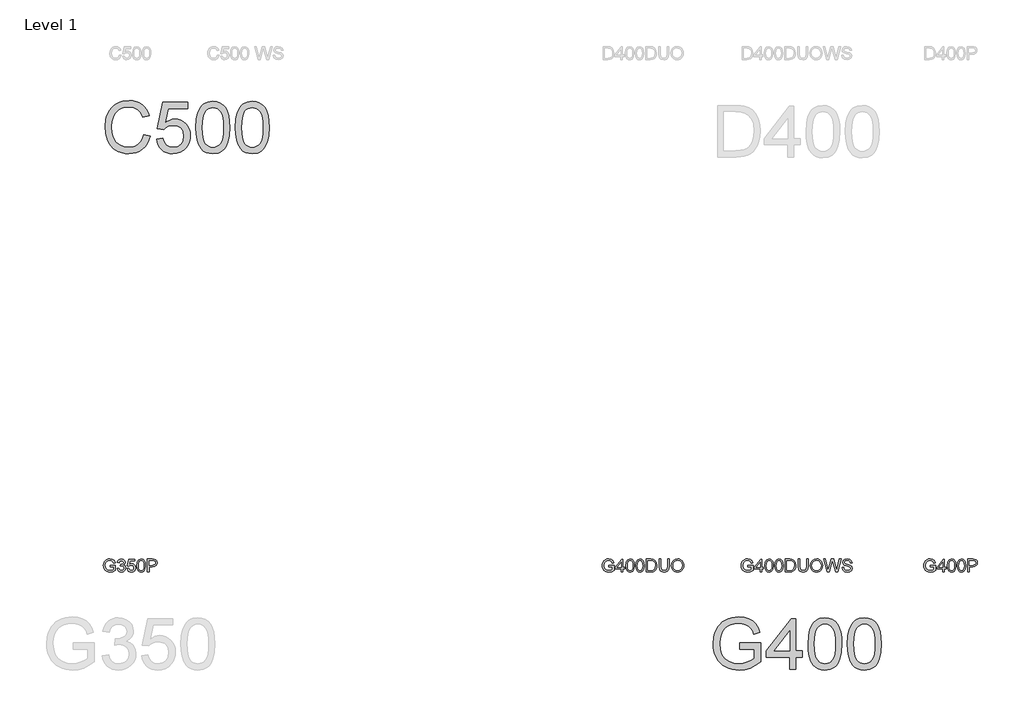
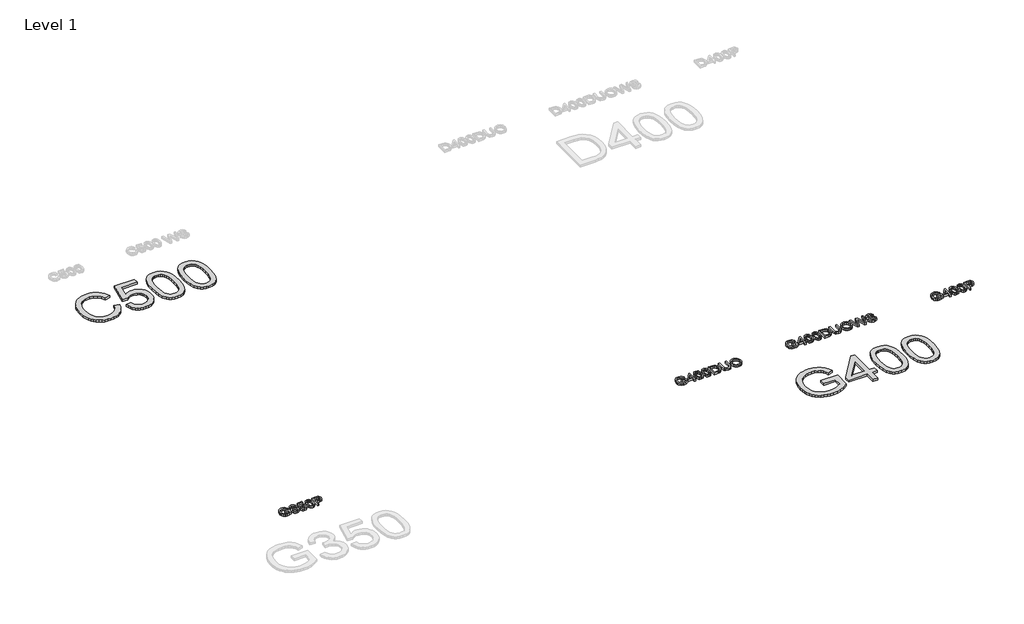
# One storey, part 4 of 5: 6 proxies.
"""IFC4 building model written with IfcOpenShell, lengths in millimetres."""

from ifc_helpers import new_model, si_unit, origin, origin_with_axes, place, context, project, spatial, polyline, outline, extrude, element, save

model = new_model("IFC4")

# Units and contexts
model_context = context("Model", 3, world=origin())
ifc_project = project(units=[si_unit("LENGTHUNIT", "METRE", prefix="MILLI")], contexts=[model_context])

# Site, building, storey
site = spatial("IfcSite", under=ifc_project)
building = spatial("IfcBuilding", under=site)
storey = spatial("IfcBuildingStorey", under=building, Name="Level 1", Elevation=0.0)

# Proxies
placement = place(None, origin())
element("IfcBuildingElementProxy", 1, Name="100mm Arial", ObjectType="100mm Arial", at=placement, inside=storey, context=model_context, shape_type="SweptSolid", body=[
    extrude(outline(polyline([(732.7703676, -7879.010611), (732.7703676, -7866.4535723), (773.5807436, -7866.4535723), (773.5807436, -7904.0020612), (753.433073, -7915.8478615), (732.1327055, -7919.820987), (718.0458907, -7918.2421601), (705.314108, -7913.5056795), (694.7375007, -7905.7770919), (687.116212, -7895.2219443), (682.50849, -7882.5606723), (680.9725827, -7868.5137114), (682.5023586, -7854.365583), (687.0916865, -7841.2046047), (694.550494, -7830.1650791), (704.6887086, -7822.3813092), (717.0372809, -7817.7643902), (731.1271614, -7816.2254172), (750.7720599, -7819.7938725), (764.5431093, -7829.7266864), (772.1337411, -7846.3426899), (760.557721, -7849.6045769), (754.8310246, -7837.9917686), (745.0453635, -7831.2963163), (730.9309576, -7828.782456), (714.8545144, -7831.49252), (703.9161564, -7838.6049052), (697.4536961, -7848.2802017), (693.5296214, -7867.9986767), (698.2507737, -7889.8876554), (711.9850349, -7902.9842544), (731.1271614, -7907.2639483), (748.3072505, -7904.0388494), (761.0237048, -7897.1594561), (761.0237048, -7879.010611), (732.7703676, -7879.010611)])), origin_with_axes(), (0.0, 0.0, 1.0), 20.0),
    extrude(outline(polyline([(789.2770421, -7891.5676498), (801.8340808, -7889.99802), (808.7625251, -7903.2172463), (821.724234, -7907.2639483), (830.3326727, -7905.8721281), (836.9790741, -7901.6966674), (842.6444568, -7887.9133553), (837.028125, -7874.9271209), (822.7543036, -7869.7890357), (813.9496612, -7871.1624618), (815.3476128, -7858.605423), (817.358701, -7858.7525758), (831.607997, -7855.1473323), (836.3536747, -7850.5733328), (837.9355673, -7844.0618215), (833.3493051, -7834.2393722), (821.5280303, -7830.3520858), (809.5596027, -7834.2761604), (803.4037107, -7846.0483843), (790.8466719, -7844.4787544), (794.543886, -7833.2031713), (801.1228423, -7824.784805), (810.1236885, -7819.5424865), (821.0865719, -7817.795047), (836.2310474, -7821.2408751), (846.8260488, -7830.6586541), (850.4926061, -7843.3260575), (847.0099898, -7854.9020776), (836.709294, -7863.2162107), (850.3945042, -7871.8001239), (855.2014956, -7888.1340845), (852.7979999, -7900.3722922), (845.5875128, -7910.5994117), (834.7043371, -7917.5155932), (821.2827756, -7919.820987), (809.1426698, -7917.8528184), (799.2589069, -7911.9483123), (792.3856449, -7902.9168094), (789.2770421, -7891.5676498)])), origin_with_axes(), (0.0, 0.0, 1.0), 20.0),
    extrude(outline(polyline([(866.1889045, -7891.5676498), (878.7459433, -7889.99802), (885.0735136, -7902.9352035), (898.1946381, -7907.2639483), (907.1954842, -7905.7586978), (913.9399875, -7901.2429463), (918.1522363, -7894.23786), (919.5563193, -7885.264605), (914.2956068, -7870.3531214), (907.6890593, -7866.2512372), (898.3908418, -7864.8839424), (887.3666447, -7867.0667089), (880.3155731, -7872.7320917), (867.7585344, -7871.1624618), (878.7459433, -7819.3646769), (927.4044685, -7819.3646769), (927.4044685, -7831.9217157), (888.8994864, -7831.9217157), (883.5284092, -7859.5864417), (892.4985985, -7854.1417882), (901.8979835, -7852.3269037), (913.6303535, -7854.5771152), (923.3700293, -7861.3277498), (929.9275259, -7871.6161829), (932.1133581, -7884.47979), (930.1451894, -7897.0368288), (924.2406834, -7907.7789831), (912.9344434, -7916.810486), (898.1455872, -7919.820987), (885.8123433, -7917.8865409), (875.9868283, -7912.0832024), (869.2515221, -7903.0854219), (866.1889045, -7891.5676498)])), origin_with_axes(), (0.0, 0.0, 1.0), 20.0),
    extrude(outline(polyline([(943.100767, -7868.8325425), (946.7918497, -7839.9292804), (957.7547331, -7823.264226), (976.0629937, -7817.795047), (990.7292226, -7821.0324086), (1000.8582402, -7830.3643485), (1006.7443521, -7845.2267811), (1009.0252205, -7868.8325425), (1005.370926, -7897.6131773), (994.4448308, -7914.3150198), (986.2134711, -7918.4444952), (976.0629937, -7919.820987), (963.0154456, -7917.4297541), (953.1071572, -7910.2560552), (945.6023645, -7893.2660384), (943.100767, -7868.8325425)]), holes=[polyline([(955.6578057, -7868.808017), (957.1293337, -7888.5602145), (961.5439177, -7899.9921475), (968.1167426, -7905.4459981), (976.0629937, -7907.2639483), (984.0092448, -7905.4398667), (990.5820698, -7899.967622), (994.9966538, -7888.5295577), (996.4681817, -7868.808017), (995.0457047, -7849.5003437), (990.7782736, -7837.9795058), (984.2177113, -7832.2589408), (975.9158409, -7830.3520858), (968.055429, -7832.0320803), (961.7401214, -7837.0720636), (957.1783847, -7849.3102713), (955.6578057, -7868.808017)])]), origin_with_axes(), (0.0, 0.0, 1.0), 20.0),
    extrude(outline(polyline([(1024.721519, -7918.2513572), (1024.721519, -7817.795047), (1061.9511769, -7817.795047), (1076.9607623, -7818.7515402), (1089.1621818, -7823.448167), (1097.0716447, -7833.1602517), (1100.0637516, -7846.8577247), (1098.0434663, -7858.6973935), (1091.9826104, -7868.5627624), (1080.6487793, -7875.2214265), (1062.8095682, -7877.4409812), (1037.2785577, -7877.4409812), (1037.2785577, -7918.2513572), (1024.721519, -7918.2513572)]), holes=[polyline([(1037.2785577, -7864.8839424), (1063.5453322, -7864.8839424), (1082.0375338, -7860.2731548), (1086.1394181, -7854.724268), (1087.5067128, -7847.2991831), (1084.281614, -7836.9003853), (1075.8080654, -7831.2104771), (1063.2510266, -7830.3520858), (1037.2785577, -7830.3520858), (1037.2785577, -7864.8839424)])]), origin_with_axes(), (0.0, 0.0, 1.0), 20.0),
])
element("IfcBuildingElementProxy", 2, Name="100mm Arial", ObjectType="100mm Arial", at=placement, inside=storey, context=model_context, shape_type="SweptSolid", body=[
    extrude(outline(polyline([(5708.3132996, -7879.010611), (5708.3132996, -7866.4535723), (5749.1236756, -7866.4535723), (5749.1236756, -7904.0020612), (5728.976005, -7915.8478615), (5707.6756375, -7919.820987), (5693.5888228, -7918.2421601), (5680.85704, -7913.5056795), (5670.2804327, -7905.7770919), (5662.659144, -7895.2219443), (5658.051422, -7882.5606723), (5656.5155147, -7868.5137114), (5658.0452907, -7854.365583), (5662.6346185, -7841.2046047), (5670.093426, -7830.1650791), (5680.2316406, -7822.3813092), (5692.5802129, -7817.7643902), (5706.6700934, -7816.2254172), (5726.3149919, -7819.7938725), (5740.0860413, -7829.7266864), (5747.6766731, -7846.3426899), (5736.100653, -7849.6045769), (5730.3739566, -7837.9917686), (5720.5882955, -7831.2963163), (5706.4738896, -7828.782456), (5690.3974464, -7831.49252), (5679.4590885, -7838.6049052), (5672.9966281, -7848.2802017), (5669.0725535, -7867.9986767), (5673.7937057, -7889.8876554), (5687.5279669, -7902.9842544), (5706.6700934, -7907.2639483), (5723.8501825, -7904.0388494), (5736.5666368, -7897.1594561), (5736.5666368, -7879.010611), (5708.3132996, -7879.010611)])), origin_with_axes(), (0.0, 0.0, 1.0), 20.0),
    extrude(outline(polyline([(5805.6303501, -7918.2513572), (5805.6303501, -7894.7069095), (5760.1110845, -7894.7069095), (5760.1110845, -7882.1498707), (5808.7696098, -7819.3646769), (5818.1873888, -7819.3646769), (5818.1873888, -7882.1498707), (5830.7444276, -7882.1498707), (5830.7444276, -7894.7069095), (5818.1873888, -7894.7069095), (5818.1873888, -7918.2513572), (5805.6303501, -7918.2513572)]), holes=[polyline([(5805.6303501, -7882.1498707), (5805.6303501, -7843.350583), (5775.5621283, -7882.1498707), (5805.6303501, -7882.1498707)])]), origin_with_axes(), (0.0, 0.0, 1.0), 20.0),
    extrude(outline(polyline([(5841.7318365, -7868.8325425), (5845.4229192, -7839.9292804), (5856.3858027, -7823.264226), (5874.6940633, -7817.795047), (5889.3602922, -7821.0324086), (5899.4893098, -7830.3643485), (5905.3754217, -7845.2267811), (5907.6562901, -7868.8325425), (5904.0019956, -7897.6131773), (5893.0759003, -7914.3150198), (5884.8445407, -7918.4444952), (5874.6940633, -7919.820987), (5861.6465152, -7917.4297541), (5851.7382268, -7910.2560552), (5844.2334341, -7893.2660384), (5841.7318365, -7868.8325425)]), holes=[polyline([(5854.2888753, -7868.808017), (5855.7604033, -7888.5602145), (5860.1749872, -7899.9921475), (5866.7478122, -7905.4459981), (5874.6940633, -7907.2639483), (5882.6403144, -7905.4398667), (5889.2131394, -7899.967622), (5893.6277233, -7888.5295577), (5895.0992513, -7868.808017), (5893.6767742, -7849.5003437), (5889.4093431, -7837.9795058), (5882.8487809, -7832.2589408), (5874.5469105, -7830.3520858), (5866.6864985, -7832.0320803), (5860.3711909, -7837.0720636), (5855.8094542, -7849.3102713), (5854.2888753, -7868.808017)])]), origin_with_axes(), (0.0, 0.0, 1.0), 20.0),
    extrude(outline(polyline([(5918.643699, -7868.8325425), (5922.3347817, -7839.9292804), (5933.2976651, -7823.264226), (5951.6059258, -7817.795047), (5966.2721546, -7821.0324086), (5976.4011722, -7830.3643485), (5982.2872842, -7845.2267811), (5984.5681525, -7868.8325425), (5980.913858, -7897.6131773), (5969.9877628, -7914.3150198), (5961.7564031, -7918.4444952), (5951.6059258, -7919.820987), (5938.5583777, -7917.4297541), (5928.6500893, -7910.2560552), (5921.1452966, -7893.2660384), (5918.643699, -7868.8325425)]), holes=[polyline([(5931.2007378, -7868.808017), (5932.6722657, -7888.5602145), (5937.0868497, -7899.9921475), (5943.6596747, -7905.4459981), (5951.6059258, -7907.2639483), (5959.5521768, -7905.4398667), (5966.1250018, -7899.967622), (5970.5395858, -7888.5295577), (5972.0111138, -7868.808017), (5970.5886367, -7849.5003437), (5966.3212056, -7837.9795058), (5959.7606433, -7832.2589408), (5951.458773, -7830.3520858), (5943.598361, -7832.0320803), (5937.2830534, -7837.0720636), (5932.7213167, -7849.3102713), (5931.2007378, -7868.808017)])]), origin_with_axes(), (0.0, 0.0, 1.0), 20.0),
    extrude(outline(polyline([(6000.264451, -7918.2513572), (6000.264451, -7817.795047), (6034.9189349, -7817.795047), (6052.8470508, -7819.2420496), (6067.6113816, -7826.4280112), (6079.5062327, -7843.5958376), (6083.4548328, -7867.4836419), (6080.781557, -7887.7539398), (6073.9144264, -7902.3833805), (6064.741902, -7911.4945912), (6052.7366862, -7916.5345745), (6036.5866666, -7918.2513572), (6000.264451, -7918.2513572)]), holes=[polyline([(6012.8214898, -7905.6943184), (6035.0415623, -7905.6943184), (6051.2038446, -7903.8794339), (6060.5235218, -7898.7536114), (6068.1632046, -7886.2824118), (6070.8977941, -7867.2874381), (6069.5580905, -7853.6022279), (6065.5389797, -7843.4977358), (6052.5036943, -7832.3631741), (6034.6982057, -7830.3520858), (6012.8214898, -7830.3520858), (6012.8214898, -7905.6943184)])]), origin_with_axes(), (0.0, 0.0, 1.0), 20.0),
    extrude(outline(polyline([(6166.6452147, -7817.795047), (6179.2022534, -7817.795047), (6179.2022534, -7875.748724), (6175.7932136, -7899.7714183), (6163.505955, -7914.2414434), (6153.2420473, -7918.4261011), (6140.2067619, -7919.820987), (6117.2631882, -7914.9649447), (6109.6235054, -7909.0205848), (6104.5344711, -7900.8995898), (6100.7207611, -7875.748724), (6100.7207611, -7817.795047), (6113.2777999, -7817.795047), (6113.2777999, -7875.3072656), (6115.754872, -7894.4493921), (6124.2652088, -7903.9284848), (6139.0295396, -7907.2639483), (6151.8011762, -7905.6146107), (6160.2931189, -7900.6665978), (6165.0571907, -7891.0280895), (6166.6452147, -7875.3072656), (6166.6452147, -7817.795047)])), origin_with_axes(), (0.0, 0.0, 1.0), 20.0),
    extrude(outline(polyline([(6196.4681817, -7869.3475773), (6199.8159079, -7847.1336362), (6209.8590864, -7830.3275603), (6225.1936342, -7819.750953), (6244.4154684, -7816.2254172), (6257.5917752, -7817.8808862), (6269.4069187, -7822.8472931), (6279.2171052, -7830.7751501), (6286.3785414, -7841.3149693), (6290.7563371, -7853.9578472), (6292.2156024, -7868.1948804), (6290.679695, -7882.621986), (6286.071973, -7895.4426735), (6278.6468881, -7906.0008868), (6268.6588919, -7913.6405695), (6256.9449161, -7918.2758827), (6244.341892, -7919.820987), (6230.9632502, -7918.1134014), (6219.0806617, -7912.9906447), (6209.2950006, -7904.9156349), (6202.2071409, -7894.3512902), (6196.4681817, -7869.3475773)]), holes=[polyline([(6209.0252205, -7869.4702046), (6211.5360151, -7885.1848972), (6219.068399, -7897.1594561), (6230.3899674, -7904.7378252), (6244.2683156, -7907.2639483), (6258.348999, -7904.7132998), (6269.6889615, -7897.0613543), (6277.1661631, -7884.7189133), (6279.6585636, -7868.0967785), (6275.3911324, -7847.3727595), (6262.9199328, -7833.650761), (6244.4890448, -7828.782456), (6230.9816443, -7831.1277037), (6219.4975946, -7838.1634468), (6211.643314, -7850.6806317), (6209.0252205, -7869.4702046)])]), origin_with_axes(), (0.0, 0.0, 1.0), 20.0),
    extrude(outline(polyline([(6327.4586975, -7918.2513572), (6300.0637516, -7817.795047), (6313.0131978, -7817.795047), (6328.9057, -7883.8176024), (6333.8107933, -7904.198265), (6339.0592431, -7886.1720472), (6358.9739217, -7817.795047), (6377.6378016, -7817.795047), (6392.1078268, -7867.3610145), (6402.8745065, -7904.198265), (6407.632447, -7884.4062136), (6423.672102, -7817.795047), (6436.6215482, -7817.795047), (6409.2020768, -7918.2513572), (6395.7866467, -7918.2513572), (6371.7026388, -7840.7508835), (6368.3426499, -7829.9351529), (6364.5657281, -7842.9581755), (6342.6154357, -7918.2513572), (6327.4586975, -7918.2513572)])), origin_with_axes(), (0.0, 0.0, 1.0), 20.0),
    extrude(outline(polyline([(6444.4696974, -7883.7195006), (6457.0267362, -7883.7195006), (6461.0734381, -7896.2888021), (6470.9572011, -7904.2350532), (6486.0158374, -7907.2639483), (6499.1369619, -7904.9708172), (6507.6105105, -7898.6677723), (6510.394151, -7890.2432746), (6508.3094863, -7882.4073881), (6499.774624, -7876.7052172), (6481.4908889, -7871.9104885), (6461.8092021, -7865.7178083), (6451.1283615, -7856.3736056), (6447.6089571, -7843.8901432), (6451.9622274, -7829.6776355), (6464.6786817, -7819.6467198), (6483.2935106, -7816.2254172), (6503.1591384, -7819.8061353), (6516.4028902, -7830.3275603), (6521.3815599, -7846.0483843), (6508.8245211, -7846.0483843), (6506.5191273, -7838.5558543), (6501.7121359, -7833.147989), (6483.78402, -7828.782456), (6465.8068531, -7833.098938), (6460.1659959, -7843.5222612), (6464.1636469, -7852.2288018), (6484.6669368, -7859.2430852), (6506.8870093, -7865.54613), (6519.0393778, -7875.7241985), (6522.9511897, -7889.9244436), (6518.4507667, -7904.9462917), (6505.5013204, -7915.9091752), (6486.5063467, -7919.820987), (6464.0778078, -7915.6026068), (6449.8898255, -7902.8984153), (6444.4696974, -7883.7195006)])), origin_with_axes(), (0.0, 0.0, 1.0), 20.0),
])
element("IfcBuildingElementProxy", 3, Name="100mm Arial", ObjectType="100mm Arial", at=placement, inside=storey, context=model_context, shape_type="SweptSolid", body=[
    extrude(outline(polyline([(4624.4659082, -7879.010611), (4624.4659082, -7866.4535723), (4665.2762842, -7866.4535723), (4665.2762842, -7904.0020612), (4645.1286136, -7915.8478615), (4623.8282461, -7919.820987), (4609.7414314, -7918.2421601), (4597.0096486, -7913.5056795), (4586.4330413, -7905.7770919), (4578.8117526, -7895.2219443), (4574.2040306, -7882.5606723), (4572.6681233, -7868.5137114), (4574.1978993, -7854.365583), (4578.7872272, -7841.2046047), (4586.2460346, -7830.1650791), (4596.3842493, -7822.3813092), (4608.7328216, -7817.7643902), (4622.822702, -7816.2254172), (4642.4676005, -7819.7938725), (4656.2386499, -7829.7266864), (4663.8292817, -7846.3426899), (4652.2532616, -7849.6045769), (4646.5265652, -7837.9917686), (4636.7409041, -7831.2963163), (4622.6264982, -7828.782456), (4606.5500551, -7831.49252), (4595.6116971, -7838.6049052), (4589.1492367, -7848.2802017), (4585.2251621, -7867.9986767), (4589.9463143, -7889.8876554), (4603.6805755, -7902.9842544), (4622.822702, -7907.2639483), (4640.0027911, -7904.0388494), (4652.7192454, -7897.1594561), (4652.7192454, -7879.010611), (4624.4659082, -7879.010611)])), origin_with_axes(), (0.0, 0.0, 1.0), 20.0),
    extrude(outline(polyline([(4721.7829587, -7918.2513572), (4721.7829587, -7894.7069095), (4676.2636931, -7894.7069095), (4676.2636931, -7882.1498707), (4724.9222184, -7819.3646769), (4734.3399974, -7819.3646769), (4734.3399974, -7882.1498707), (4746.8970362, -7882.1498707), (4746.8970362, -7894.7069095), (4734.3399974, -7894.7069095), (4734.3399974, -7918.2513572), (4721.7829587, -7918.2513572)]), holes=[polyline([(4721.7829587, -7882.1498707), (4721.7829587, -7843.350583), (4691.7147369, -7882.1498707), (4721.7829587, -7882.1498707)])]), origin_with_axes(), (0.0, 0.0, 1.0), 20.0),
    extrude(outline(polyline([(4757.8844451, -7868.8325425), (4761.5755278, -7839.9292804), (4772.5384113, -7823.264226), (4790.8466719, -7817.795047), (4805.5129008, -7821.0324086), (4815.6419184, -7830.3643485), (4821.5280303, -7845.2267811), (4823.8088987, -7868.8325425), (4820.1546042, -7897.6131773), (4809.2285089, -7914.3150198), (4800.9971493, -7918.4444952), (4790.8466719, -7919.820987), (4777.7991238, -7917.4297541), (4767.8908354, -7910.2560552), (4760.3860427, -7893.2660384), (4757.8844451, -7868.8325425)]), holes=[polyline([(4770.4414839, -7868.808017), (4771.9130119, -7888.5602145), (4776.3275958, -7899.9921475), (4782.9004208, -7905.4459981), (4790.8466719, -7907.2639483), (4798.792923, -7905.4398667), (4805.365748, -7899.967622), (4809.7803319, -7888.5295577), (4811.2518599, -7868.808017), (4809.8293829, -7849.5003437), (4805.5619517, -7837.9795058), (4799.0013895, -7832.2589408), (4790.6995191, -7830.3520858), (4782.8391071, -7832.0320803), (4776.5237996, -7837.0720636), (4771.9620628, -7849.3102713), (4770.4414839, -7868.808017)])]), origin_with_axes(), (0.0, 0.0, 1.0), 20.0),
    extrude(outline(polyline([(4834.7963076, -7868.8325425), (4838.4873903, -7839.9292804), (4849.4502737, -7823.264226), (4867.7585344, -7817.795047), (4882.4247632, -7821.0324086), (4892.5537808, -7830.3643485), (4898.4398928, -7845.2267811), (4900.7207611, -7868.8325425), (4897.0664666, -7897.6131773), (4886.1403714, -7914.3150198), (4877.9090117, -7918.4444952), (4867.7585344, -7919.820987), (4854.7109863, -7917.4297541), (4844.8026979, -7910.2560552), (4837.2979052, -7893.2660384), (4834.7963076, -7868.8325425)]), holes=[polyline([(4847.3533464, -7868.808017), (4848.8248743, -7888.5602145), (4853.2394583, -7899.9921475), (4859.8122833, -7905.4459981), (4867.7585344, -7907.2639483), (4875.7047855, -7905.4398667), (4882.2776104, -7899.967622), (4886.6921944, -7888.5295577), (4888.1637224, -7868.808017), (4886.7412453, -7849.5003437), (4882.4738142, -7837.9795058), (4875.9132519, -7832.2589408), (4867.6113816, -7830.3520858), (4859.7509696, -7832.0320803), (4853.435662, -7837.0720636), (4848.8739253, -7849.3102713), (4847.3533464, -7868.808017)])]), origin_with_axes(), (0.0, 0.0, 1.0), 20.0),
    extrude(outline(polyline([(4916.4170596, -7918.2513572), (4916.4170596, -7817.795047), (4951.0715435, -7817.795047), (4968.9996594, -7819.2420496), (4983.7639902, -7826.4280112), (4995.6588414, -7843.5958376), (4999.6074414, -7867.4836419), (4996.9341656, -7887.7539398), (4990.067035, -7902.3833805), (4980.8945106, -7911.4945912), (4968.8892948, -7916.5345745), (4952.7392752, -7918.2513572), (4916.4170596, -7918.2513572)]), holes=[polyline([(4928.9740984, -7905.6943184), (4951.1941709, -7905.6943184), (4967.3564532, -7903.8794339), (4976.6761304, -7898.7536114), (4984.3158132, -7886.2824118), (4987.0504027, -7867.2874381), (4985.7106991, -7853.6022279), (4981.6915883, -7843.4977358), (4968.6563029, -7832.3631741), (4950.8508143, -7830.3520858), (4928.9740984, -7830.3520858), (4928.9740984, -7905.6943184)])]), origin_with_axes(), (0.0, 0.0, 1.0), 20.0),
    extrude(outline(polyline([(5082.7978233, -7817.795047), (5095.354862, -7817.795047), (5095.354862, -7875.748724), (5091.9458222, -7899.7714183), (5079.6585636, -7914.2414434), (5069.3946559, -7918.4261011), (5056.3593706, -7919.820987), (5033.4157968, -7914.9649447), (5025.776114, -7909.0205848), (5020.6870798, -7900.8995898), (5016.8733697, -7875.748724), (5016.8733697, -7817.795047), (5029.4304085, -7817.795047), (5029.4304085, -7875.3072656), (5031.9074806, -7894.4493921), (5040.4178174, -7903.9284848), (5055.1821482, -7907.2639483), (5067.9537848, -7905.6146107), (5076.4457275, -7900.6665978), (5081.2097993, -7891.0280895), (5082.7978233, -7875.3072656), (5082.7978233, -7817.795047)])), origin_with_axes(), (0.0, 0.0, 1.0), 20.0),
    extrude(outline(polyline([(5112.6207904, -7869.3475773), (5115.9685165, -7847.1336362), (5126.011695, -7830.3275603), (5141.3462428, -7819.750953), (5160.5680771, -7816.2254172), (5173.7443839, -7817.8808862), (5185.5595273, -7822.8472931), (5195.3697138, -7830.7751501), (5202.53115, -7841.3149693), (5206.9089457, -7853.9578472), (5208.368211, -7868.1948804), (5206.8323036, -7882.621986), (5202.2245816, -7895.4426735), (5194.7994967, -7906.0008868), (5184.8115005, -7913.6405695), (5173.0975247, -7918.2758827), (5160.4945007, -7919.820987), (5147.1158588, -7918.1134014), (5135.2332703, -7912.9906447), (5125.4476093, -7904.9156349), (5118.3597495, -7894.3512902), (5112.6207904, -7869.3475773)]), holes=[polyline([(5125.1778291, -7869.4702046), (5127.6886237, -7885.1848972), (5135.2210076, -7897.1594561), (5146.542576, -7904.7378252), (5160.4209243, -7907.2639483), (5174.5016076, -7904.7132998), (5185.8415701, -7897.0613543), (5193.3187717, -7884.7189133), (5195.8111722, -7868.0967785), (5191.5437411, -7847.3727595), (5179.0725414, -7833.650761), (5160.6416535, -7828.782456), (5147.1342529, -7831.1277037), (5135.6502033, -7838.1634468), (5127.7959227, -7850.6806317), (5125.1778291, -7869.4702046)])]), origin_with_axes(), (0.0, 0.0, 1.0), 20.0),
])
element("IfcBuildingElementProxy", 4, Name="100mm Arial", ObjectType="100mm Arial", at=placement, inside=storey, context=model_context, shape_type="SweptSolid", body=[
    extrude(outline(polyline([(7132.7703676, -7879.010611), (7132.7703676, -7866.4535723), (7173.5807436, -7866.4535723), (7173.5807436, -7904.0020612), (7153.433073, -7915.8478615), (7132.1327055, -7919.820987), (7118.0458907, -7918.2421601), (7105.314108, -7913.5056795), (7094.7375007, -7905.7770919), (7087.116212, -7895.2219443), (7082.50849, -7882.5606723), (7080.9725827, -7868.5137114), (7082.5023586, -7854.365583), (7087.0916865, -7841.2046047), (7094.550494, -7830.1650791), (7104.6887086, -7822.3813092), (7117.0372809, -7817.7643902), (7131.1271614, -7816.2254172), (7150.7720599, -7819.7938725), (7164.5431093, -7829.7266864), (7172.1337411, -7846.3426899), (7160.557721, -7849.6045769), (7154.8310246, -7837.9917686), (7145.0453635, -7831.2963163), (7130.9309576, -7828.782456), (7114.8545144, -7831.49252), (7103.9161564, -7838.6049052), (7097.4536961, -7848.2802017), (7093.5296214, -7867.9986767), (7098.2507737, -7889.8876554), (7111.9850349, -7902.9842544), (7131.1271614, -7907.2639483), (7148.3072505, -7904.0388494), (7161.0237048, -7897.1594561), (7161.0237048, -7879.010611), (7132.7703676, -7879.010611)])), origin_with_axes(), (0.0, 0.0, 1.0), 20.0),
    extrude(outline(polyline([(7230.0874181, -7918.2513572), (7230.0874181, -7894.7069095), (7184.5681525, -7894.7069095), (7184.5681525, -7882.1498707), (7233.2266777, -7819.3646769), (7242.6444568, -7819.3646769), (7242.6444568, -7882.1498707), (7255.2014956, -7882.1498707), (7255.2014956, -7894.7069095), (7242.6444568, -7894.7069095), (7242.6444568, -7918.2513572), (7230.0874181, -7918.2513572)]), holes=[polyline([(7230.0874181, -7882.1498707), (7230.0874181, -7843.350583), (7200.0191963, -7882.1498707), (7230.0874181, -7882.1498707)])]), origin_with_axes(), (0.0, 0.0, 1.0), 20.0),
    extrude(outline(polyline([(7266.1889045, -7868.8325425), (7269.8799872, -7839.9292804), (7280.8428707, -7823.264226), (7299.1511313, -7817.795047), (7313.8173602, -7821.0324086), (7323.9463778, -7830.3643485), (7329.8324897, -7845.2267811), (7332.1133581, -7868.8325425), (7328.4590636, -7897.6131773), (7317.5329683, -7914.3150198), (7309.3016087, -7918.4444952), (7299.1511313, -7919.820987), (7286.1035832, -7917.4297541), (7276.1952948, -7910.2560552), (7268.6905021, -7893.2660384), (7266.1889045, -7868.8325425)]), holes=[polyline([(7278.7459433, -7868.808017), (7280.2174713, -7888.5602145), (7284.6320552, -7899.9921475), (7291.2048802, -7905.4459981), (7299.1511313, -7907.2639483), (7307.0973824, -7905.4398667), (7313.6702074, -7899.967622), (7318.0847913, -7888.5295577), (7319.5563193, -7868.808017), (7318.1338422, -7849.5003437), (7313.8664111, -7837.9795058), (7307.3058488, -7832.2589408), (7299.0039785, -7830.3520858), (7291.1435665, -7832.0320803), (7284.8282589, -7837.0720636), (7280.2665222, -7849.3102713), (7278.7459433, -7868.808017)])]), origin_with_axes(), (0.0, 0.0, 1.0), 20.0),
    extrude(outline(polyline([(7343.100767, -7868.8325425), (7346.7918497, -7839.9292804), (7357.7547331, -7823.264226), (7376.0629937, -7817.795047), (7390.7292226, -7821.0324086), (7400.8582402, -7830.3643485), (7406.7443521, -7845.2267811), (7409.0252205, -7868.8325425), (7405.370926, -7897.6131773), (7394.4448308, -7914.3150198), (7386.2134711, -7918.4444952), (7376.0629937, -7919.820987), (7363.0154456, -7917.4297541), (7353.1071572, -7910.2560552), (7345.6023645, -7893.2660384), (7343.100767, -7868.8325425)]), holes=[polyline([(7355.6578057, -7868.808017), (7357.1293337, -7888.5602145), (7361.5439177, -7899.9921475), (7368.1167426, -7905.4459981), (7376.0629937, -7907.2639483), (7384.0092448, -7905.4398667), (7390.5820698, -7899.967622), (7394.9966538, -7888.5295577), (7396.4681817, -7868.808017), (7395.0457047, -7849.5003437), (7390.7782736, -7837.9795058), (7384.2177113, -7832.2589408), (7375.9158409, -7830.3520858), (7368.055429, -7832.0320803), (7361.7401214, -7837.0720636), (7357.1783847, -7849.3102713), (7355.6578057, -7868.808017)])]), origin_with_axes(), (0.0, 0.0, 1.0), 20.0),
    extrude(outline(polyline([(7424.721519, -7918.2513572), (7424.721519, -7817.795047), (7461.9511769, -7817.795047), (7476.9607623, -7818.7515402), (7489.1621818, -7823.448167), (7497.0716447, -7833.1602517), (7500.0637516, -7846.8577247), (7498.0434663, -7858.6973935), (7491.9826104, -7868.5627624), (7480.6487793, -7875.2214265), (7462.8095682, -7877.4409812), (7437.2785577, -7877.4409812), (7437.2785577, -7918.2513572), (7424.721519, -7918.2513572)]), holes=[polyline([(7437.2785577, -7864.8839424), (7463.5453322, -7864.8839424), (7482.0375338, -7860.2731548), (7486.1394181, -7854.724268), (7487.5067128, -7847.2991831), (7484.281614, -7836.9003853), (7475.8080654, -7831.2104771), (7463.2510266, -7830.3520858), (7437.2785577, -7830.3520858), (7437.2785577, -7864.8839424)])]), origin_with_axes(), (0.0, 0.0, 1.0), 20.0),
])
element("IfcBuildingElementProxy", 5, Name="400mm Arial", ObjectType="400mm Arial", at=placement, inside=storey, context=model_context, shape_type="SweptSolid", body=[
    extrude(outline(polyline([(995.1398863, -4503.6440039), (1045.3680414, -4516.5934501), (1035.4290962, -4547.8296972), (1022.1914757, -4575.1234755), (1005.65518, -4598.4747852), (985.8202091, -4617.8836261), (963.1341527, -4633.1415318), (938.0446007, -4644.0400359), (910.5515529, -4650.5791384), (880.6550094, -4652.7588392), (850.0257676, -4651.1095016), (822.3947641, -4646.1614888), (797.7619989, -4637.9148007), (776.1274719, -4626.3694374), (757.1938118, -4611.6970772), (740.6636475, -4594.0693983), (726.5369789, -4573.4864006), (714.813806, -4549.9480843), (699.0316684, -4498.076723), (693.7709559, -4442.5265417), (699.7183815, -4383.9352026), (707.1526634, -4357.6377713), (717.5606582, -4333.3391655), (730.7093739, -4311.4409898), (746.3658184, -4292.3448486), (764.529992, -4276.0507419), (785.2018944, -4262.5586697), (807.6794843, -4251.9789966), (831.2607202, -4244.4220873), (881.7341299, -4238.3765599), (910.4626481, -4240.3324658), (936.8060646, -4246.2001836), (960.7643796, -4255.9797133), (982.3375929, -4269.6710549), (1001.1700854, -4286.9124578), (1016.9062377, -4307.3421712), (1029.5460499, -4330.9601953), (1039.089522, -4357.76653), (988.8613669, -4369.7349576), (971.4482858, -4333.1061736), (947.6585835, -4307.9798333), (917.1979543, -4293.4484945), (879.7720926, -4288.6047149), (836.6317973, -4293.9757921), (817.9495233, -4300.6896385), (801.1924985, -4310.0890235), (774.3003246, -4335.2521519), (756.8014044, -4367.7729203), (747.1996843, -4404.5365943), (743.9991109, -4442.4284399), (747.7882955, -4488.8306222), (759.1558491, -4528.9542851), (778.5309676, -4561.266587), (806.3428464, -4584.2346863), (839.6852179, -4597.9566847), (875.6518143, -4602.5306842), (897.4886764, -4600.973317), (917.578099, -4596.3012157), (935.9200821, -4588.5143801), (952.5146258, -4577.6128103), (966.9693225, -4563.6455573), (978.8917649, -4546.6616718), (988.2819528, -4526.661154), (995.1398863, -4503.6440039)])), origin_with_axes(), (0.0, 0.0, 1.0), 20.0),
    extrude(outline(polyline([(1095.5961965, -4539.7454903), (1145.8243515, -4533.4669709), (1155.0459269, -4563.6210318), (1171.1346328, -4585.2157049), (1194.0168929, -4598.2019393), (1223.6191308, -4602.5306842), (1242.7489945, -4601.0254337), (1259.6225154, -4596.5096822), (1274.2396933, -4588.9834297), (1286.6005284, -4578.4466762), (1296.429109, -4565.4205879), (1303.4495237, -4550.4263309), (1309.0658555, -4514.5333109), (1303.805143, -4480.7372183), (1297.2292523, -4466.8190161), (1288.0230054, -4454.8873768), (1276.1557454, -4445.3163135), (1261.5968154, -4438.4798398), (1224.4039457, -4433.0106608), (1200.0378949, -4435.1934273), (1180.3071572, -4441.7417268), (1164.5495451, -4451.7726425), (1152.1028709, -4464.4032577), (1101.8747159, -4458.1247383), (1145.8243515, -4250.9335986), (1340.4584525, -4250.9335986), (1340.4584525, -4301.1617537), (1186.4385238, -4301.1617537), (1164.9542153, -4411.8206579), (1182.6799961, -4399.1164663), (1200.8349726, -4390.0420437), (1219.4191447, -4384.5973902), (1238.4325125, -4382.7825057), (1262.8935995, -4385.0327172), (1285.3619923, -4391.7833519), (1305.837691, -4403.0344095), (1324.3206956, -4418.7858903), (1339.6215209, -4438.0751696), (1350.5506819, -4459.9396228), (1357.1081784, -4484.37925), (1359.2940106, -4511.3940512), (1357.3258419, -4537.415571), (1351.4213359, -4561.6222063), (1341.5804925, -4584.0139571), (1327.8033118, -4604.5908233), (1306.93214, -4625.6643303), (1282.5783519, -4640.7168353), (1254.7419476, -4649.7483382), (1223.4229271, -4652.7588392), (1197.5025748, -4650.8243931), (1174.0899515, -4645.0210546), (1153.1850571, -4635.3488238), (1134.7878917, -4621.8077007), (1119.480935, -4605.0721356), (1107.8466669, -4585.8165788), (1099.8850874, -4564.0410304), (1095.5961965, -4539.7454903)])), origin_with_axes(), (0.0, 0.0, 1.0), 20.0),
    extrude(outline(polyline([(1403.2436463, -4448.8050611), (1406.934729, -4384.4870256), (1418.007977, -4333.1920128), (1436.3530259, -4294.1352076), (1448.2110888, -4278.9018273), (1461.8595109, -4266.5317952), (1477.3442772, -4256.960732), (1494.711373, -4250.1242582), (1535.0925534, -4244.6550792), (1566.0436919, -4247.8924408), (1593.7574689, -4257.6045255), (1616.9340346, -4273.4111885), (1634.2735393, -4294.9322853), (1647.3701383, -4321.9838746), (1657.817987, -4354.3820157), (1664.6605921, -4395.5234855), (1666.9414604, -4448.8050611), (1663.287166, -4512.7552146), (1652.3242825, -4563.9276001), (1634.0895983, -4603.0211935), (1622.2591264, -4618.300559), (1608.6199015, -4630.7349705), (1593.1167411, -4640.370413), (1575.6944629, -4647.252872), (1535.0925534, -4652.7588392), (1507.4278273, -4650.3676063), (1482.902361, -4643.1939074), (1461.5161543, -4631.2377425), (1443.2692074, -4614.4991117), (1425.7580244, -4584.2408176), (1413.2500366, -4546.5390445), (1405.7452439, -4501.3937923), (1403.2436463, -4448.8050611)]), holes=[polyline([(1453.4718014, -4448.7069592), (1454.9433294, -4492.3714864), (1459.3579133, -4527.7157491), (1466.7155532, -4554.7397473), (1477.0162491, -4573.4434811), (1489.475186, -4586.1691324), (1503.307549, -4595.2588834), (1518.5133381, -4600.712734), (1535.0925534, -4602.5306842), (1551.6717686, -4600.7066026), (1566.8775578, -4595.2343579), (1580.7099208, -4586.1139501), (1593.1688577, -4573.3453792), (1603.4695535, -4554.6109886), (1610.8271934, -4527.5931217), (1615.2417774, -4492.2917786), (1616.7133054, -4448.7069592), (1615.2908283, -4406.1981947), (1611.0233972, -4371.4762657), (1603.9110119, -4344.5411723), (1593.9536726, -4325.3929145), (1581.7032022, -4312.0449294), (1567.7114236, -4302.5106544), (1551.978337, -4296.7900893), (1534.5039422, -4294.8832343), (1518.0105661, -4296.5632288), (1503.0622943, -4301.6032121), (1489.659127, -4310.0031843), (1477.801064, -4321.7631454), (1467.1570116, -4342.6097918), (1459.554117, -4370.7159763), (1454.9923803, -4406.0816987), (1453.4718014, -4448.7069592)])]), origin_with_axes(), (0.0, 0.0, 1.0), 20.0),
    extrude(outline(polyline([(1710.8910961, -4448.8050611), (1714.5821788, -4384.4870256), (1725.6554269, -4333.1920128), (1744.0004757, -4294.1352076), (1755.8585387, -4278.9018273), (1769.5069607, -4266.5317952), (1784.991727, -4256.960732), (1802.3588229, -4250.1242582), (1842.7400032, -4244.6550792), (1873.6911417, -4247.8924408), (1901.4049187, -4257.6045255), (1924.5814844, -4273.4111885), (1941.9209891, -4294.9322853), (1955.0175881, -4321.9838746), (1965.4654368, -4354.3820157), (1972.3080419, -4395.5234855), (1974.5889103, -4448.8050611), (1970.9346158, -4512.7552146), (1959.9717323, -4563.9276001), (1941.7370481, -4603.0211935), (1929.9065763, -4618.300559), (1916.2673513, -4630.7349705), (1900.7641909, -4640.370413), (1883.3419127, -4647.252872), (1842.7400032, -4652.7588392), (1815.0752772, -4650.3676063), (1790.5498108, -4643.1939074), (1769.1636042, -4631.2377425), (1750.9166572, -4614.4991117), (1733.4054742, -4584.2408176), (1720.8974864, -4546.5390445), (1713.3926937, -4501.3937923), (1710.8910961, -4448.8050611)]), holes=[polyline([(1761.1192512, -4448.7069592), (1762.5907792, -4492.3714864), (1767.0053631, -4527.7157491), (1774.363003, -4554.7397473), (1784.6636989, -4573.4434811), (1797.1226358, -4586.1691324), (1810.9549988, -4595.2588834), (1826.160788, -4600.712734), (1842.7400032, -4602.5306842), (1859.3192185, -4600.7066026), (1874.5250076, -4595.2343579), (1888.3573706, -4586.1139501), (1900.8163075, -4573.3453792), (1911.1170034, -4554.6109886), (1918.4746433, -4527.5931217), (1922.8892272, -4492.2917786), (1924.3607552, -4448.7069592), (1922.9382782, -4406.1981947), (1918.670847, -4371.4762657), (1911.5584618, -4344.5411723), (1901.6011224, -4325.3929145), (1889.350652, -4312.0449294), (1875.3588734, -4302.5106544), (1859.6257868, -4296.7900893), (1842.151392, -4294.8832343), (1825.6580159, -4296.5632288), (1810.7097442, -4301.6032121), (1797.3065768, -4310.0031843), (1785.4485138, -4321.7631454), (1774.8044614, -4342.6097918), (1767.2015669, -4370.7159763), (1762.6398301, -4406.0816987), (1761.1192512, -4448.7069592)])]), origin_with_axes(), (0.0, 0.0, 1.0), 20.0),
])
element("IfcBuildingElementProxy", 6, Name="400mm Arial", ObjectType="400mm Arial", at=placement, inside=storey, context=model_context, shape_type="SweptSolid", body=[
    extrude(outline(polyline([(5644.7432908, -8521.2883726), (5644.7432908, -8471.0602175), (5807.9847948, -8471.0602175), (5807.9847948, -8621.2541734), (5768.314853, -8648.845323), (5727.3941124, -8668.6373744), (5685.3206749, -8680.556751), (5642.1926423, -8684.5298766), (5613.3414969, -8682.9510497), (5585.8453834, -8678.214569), (5559.704302, -8670.3204345), (5534.9182525, -8659.2686462), (5512.2873785, -8645.2247511), (5492.6118231, -8628.3542959), (5475.8915864, -8608.6572808), (5462.1266684, -8586.1337056), (5451.3753171, -8561.504006), (5443.6957805, -8535.4886176), (5439.0880585, -8508.0875403), (5437.5521512, -8479.3007742), (5443.671255, -8422.7082606), (5451.3201348, -8395.8927288), (5462.0285666, -8370.0643471), (5475.6064779, -8346.3574182), (5491.8637964, -8325.9062449), (5510.8005221, -8308.7108274), (5532.416655, -8294.7711654), (5556.2431455, -8283.9983543), (5581.8109442, -8276.3034893), (5609.120051, -8271.6865702), (5638.1704659, -8270.1475972), (5679.5449276, -8273.7160526), (5716.75006, -8284.4214186), (5748.0813433, -8301.4911432), (5771.8342574, -8324.1526741), (5789.4067541, -8353.4973946), (5802.1967848, -8390.6166879), (5755.8927043, -8403.664236), (5745.5552203, -8377.1889951), (5732.9859188, -8357.2130027), (5716.3576526, -8342.1543664), (5693.8432745, -8330.4311935), (5667.0001516, -8322.8896126), (5637.3856509, -8320.3757523), (5602.7189043, -8323.0858163), (5573.0798782, -8331.2160084), (5548.5789373, -8343.7485217), (5529.3264462, -8359.6655494), (5514.5498528, -8378.1454883), (5503.4766047, -8398.3667353), (5491.7043808, -8436.2831062), (5487.7803062, -8477.240635), (5492.5014585, -8525.2737609), (5506.6649153, -8564.7965499), (5529.841481, -8595.5269592), (5561.6019599, -8617.182946), (5598.7703042, -8630.0220276), (5638.1704659, -8634.3017215), (5672.9598399, -8631.0766227), (5706.8908226, -8621.4013262), (5736.3581704, -8608.0717352), (5757.7566398, -8593.883753), (5757.7566398, -8521.2883726), (5644.7432908, -8521.2883726)])), origin_with_axes(), (0.0, 0.0, 1.0), 20.0),
    extrude(outline(polyline([(6034.0114927, -8678.2513572), (6034.0114927, -8584.0735664), (5851.9344305, -8584.0735664), (5851.9344305, -8533.8454114), (6046.5685314, -8282.704636), (6084.2396477, -8282.704636), (6084.2396477, -8533.8454114), (6134.4678028, -8533.8454114), (6134.4678028, -8584.0735664), (6084.2396477, -8584.0735664), (6084.2396477, -8678.2513572), (6034.0114927, -8678.2513572)]), holes=[polyline([(6034.0114927, -8533.8454114), (6034.0114927, -8378.6482603), (5913.7386057, -8533.8454114), (6034.0114927, -8533.8454114)])]), origin_with_axes(), (0.0, 0.0, 1.0), 20.0),
    extrude(outline(polyline([(6178.4174385, -8480.5760984), (6182.1085212, -8416.258063), (6193.1817693, -8364.9630501), (6211.5268181, -8325.9062449), (6223.3848811, -8310.6728647), (6237.0333031, -8298.3028326), (6252.5180694, -8288.7317693), (6269.8851652, -8281.8952956), (6310.2663456, -8276.4261166), (6341.2174841, -8279.6634782), (6368.9312611, -8289.3755628), (6392.1078268, -8305.1822259), (6409.4473315, -8326.7033226), (6422.5439305, -8353.754912), (6432.9917792, -8386.153053), (6439.8343843, -8427.2945228), (6442.1152527, -8480.5760984), (6438.4609582, -8544.5262519), (6427.4980747, -8595.6986375), (6409.2633905, -8634.7922308), (6397.4329187, -8650.0715964), (6383.7936937, -8662.5060078), (6368.2905333, -8672.1414504), (6350.8682551, -8679.0239094), (6310.2663456, -8684.5298766), (6282.6016195, -8682.1386436), (6258.0761532, -8674.9649447), (6236.6899465, -8663.0087799), (6218.4429996, -8646.2701491), (6200.9318166, -8616.011855), (6188.4238288, -8578.3100818), (6180.9190361, -8533.1648297), (6178.4174385, -8480.5760984)]), holes=[polyline([(6228.6455936, -8480.4779966), (6230.1171216, -8524.1425237), (6234.5317055, -8559.4867864), (6241.8893454, -8586.5107846), (6252.1900413, -8605.2145184), (6264.6489782, -8617.9401698), (6278.4813412, -8627.0299207), (6293.6871303, -8632.4837713), (6310.2663456, -8634.3017215), (6326.8455608, -8632.4776399), (6342.05135, -8627.0053953), (6355.883713, -8617.8849875), (6368.3426499, -8605.1164166), (6378.6433458, -8586.3820259), (6386.0009857, -8559.3641591), (6390.4155696, -8524.062816), (6391.8870976, -8480.4779966), (6390.4646205, -8437.969232), (6386.1971894, -8403.2473031), (6379.0848041, -8376.3122097), (6369.1274648, -8357.1639518), (6356.8769944, -8343.8159667), (6342.8852158, -8334.2816917), (6327.1521292, -8328.5611267), (6309.6777344, -8326.6542717), (6293.1843583, -8328.3342661), (6278.2360865, -8333.3742494), (6264.8329192, -8341.7742217), (6252.9748562, -8353.5341828), (6242.3308038, -8374.3808292), (6234.7279092, -8402.4870136), (6230.1661725, -8437.8527361), (6228.6455936, -8480.4779966)])]), origin_with_axes(), (0.0, 0.0, 1.0), 20.0),
    extrude(outline(polyline([(6486.0648883, -8480.5760984), (6489.755971, -8416.258063), (6500.8292191, -8364.9630501), (6519.1742679, -8325.9062449), (6531.0323309, -8310.6728647), (6544.6807529, -8298.3028326), (6560.1655192, -8288.7317693), (6577.5326151, -8281.8952956), (6617.9137954, -8276.4261166), (6648.8649339, -8279.6634782), (6676.5787109, -8289.3755628), (6699.7552766, -8305.1822259), (6717.0947813, -8326.7033226), (6730.1913803, -8353.754912), (6740.639229, -8386.153053), (6747.4818341, -8427.2945228), (6749.7627025, -8480.5760984), (6746.108408, -8544.5262519), (6735.1455245, -8595.6986375), (6716.9108403, -8634.7922308), (6705.0803685, -8650.0715964), (6691.4411435, -8662.5060078), (6675.9379831, -8672.1414504), (6658.515705, -8679.0239094), (6617.9137954, -8684.5298766), (6590.2490694, -8682.1386436), (6565.723603, -8674.9649447), (6544.3373964, -8663.0087799), (6526.0904494, -8646.2701491), (6508.5792665, -8616.011855), (6496.0712786, -8578.3100818), (6488.5664859, -8533.1648297), (6486.0648883, -8480.5760984)]), holes=[polyline([(6536.2930434, -8480.4779966), (6537.7645714, -8524.1425237), (6542.1791553, -8559.4867864), (6549.5367952, -8586.5107846), (6559.8374911, -8605.2145184), (6572.296428, -8617.9401698), (6586.128791, -8627.0299207), (6601.3345802, -8632.4837713), (6617.9137954, -8634.3017215), (6634.4930107, -8632.4776399), (6649.6987998, -8627.0053953), (6663.5311628, -8617.8849875), (6675.9900997, -8605.1164166), (6686.2907956, -8586.3820259), (6693.6484355, -8559.3641591), (6698.0630194, -8524.062816), (6699.5345474, -8480.4779966), (6698.1120704, -8437.969232), (6693.8446392, -8403.2473031), (6686.732254, -8376.3122097), (6676.7749146, -8357.1639518), (6664.5244442, -8343.8159667), (6650.5326657, -8334.2816917), (6634.799579, -8328.5611267), (6617.3251842, -8326.6542717), (6600.8318081, -8328.3342661), (6585.8835364, -8333.3742494), (6572.480369, -8341.7742217), (6560.622306, -8353.5341828), (6549.9782536, -8374.3808292), (6542.3753591, -8402.4870136), (6537.8136223, -8437.8527361), (6536.2930434, -8480.4779966)])]), origin_with_axes(), (0.0, 0.0, 1.0), 20.0),
])

save(model, "model.ifc")
